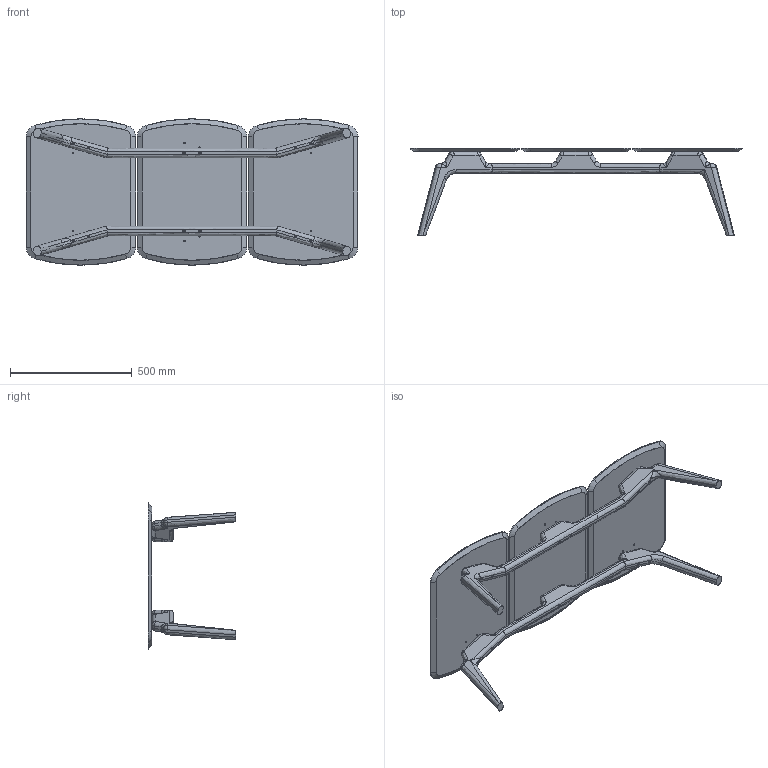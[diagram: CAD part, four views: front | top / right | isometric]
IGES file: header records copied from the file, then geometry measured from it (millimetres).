
Start section: SolidWorks IGES file using analytic representation for surfaces
Global section: file name: N:\OT\OFICINA TECNICA\PROYECTOS\EN DESARROLLO\MESA_MIXTA\3D SOLIDWORKS\MESA_MIXTA_S_TRIO.IGS; native system: SolidWorks 2016; preprocessor: SolidWorks 2016; author: Usuario; date: 190802.114756; units: millimetre
Bounding box: 1362 x 360 x 600 mm (x, y, z)
Surface area: 2193595.2 mm2 (no closed solid volume)
Topology: 0 solids, 0 shells, 450 faces, 6456 edges, 6436 vertices
Faces by surface type: revolution 252, bspline 198
